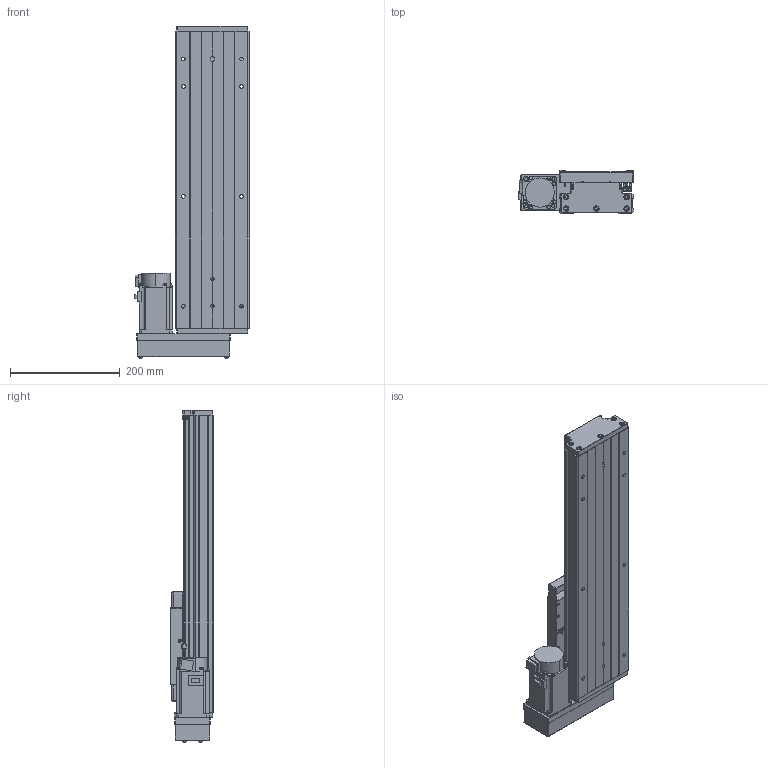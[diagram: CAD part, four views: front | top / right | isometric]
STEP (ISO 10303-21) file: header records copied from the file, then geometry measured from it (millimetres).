
FILE_DESCRIPTION (( 'STEP AP203' ), '1' );
FILE_NAME ('GTH14-300-BL-M40-C4.step', '2023-06-30T08:39:22', ( '微软用户' ), ( '微软中国' ), 'SwSTEP 2.0', 'SolidWorks 2020', '' );
FILE_SCHEMA (( 'CONFIG_CONTROL_DESIGN' ));
Length unit declared in the file: millimetre
Products named in the file (19): GTH14-004; GBT 70.1-M3℅5; GTH14-015-2_CTHA86-015-2; GTH14-005; GBT77-2000 M3×3; GTH14-033; GB1155-6X6; GTH14-031; GTH14-300-BL-M40-C4; GBT70.1 M5℅16; GBT 70.2-M3¡Á5_M3¡Á6; CTHA60-017; す晦芛蹟隊 M3℅5; GTH14-001_300; EE_SX911P_R; HG-KN43J-S100; GTH14-002_GTH14-002; CTHA60-016; GBT 70.2-M4¡Á35_M4¡Á35
Assembly tree (58 placements, depth 2):
  GTH14-300-BL-M40-C4
    GTH14-001_300
    GTH14-002_GTH14-002
    GTH14-004
    GTH14-005
    GB1155-6X6  x2
    GBT70.1 M5℅16  x10
    CTHA60-017  x3
    EE_SX911P_R  x3
    CTHA60-016  x2
    GBT 70.1-M3℅5  x6
    GBT77-2000 M3×3  x6
    GTH14-031
    GBT 70.2-M3¡Á5_M3¡Á6  x8
    す晦芛蹟隊 M3℅5  x6
    HG-KN43J-S100
    GBT 70.2-M4¡Á35_M4¡Á35  x4
    GTH14-015-2_CTHA86-015-2
    GTH14-033
Bounding box: 209.3 x 78 x 604.2 mm (x, y, z)
Volume: 3604100.3 mm3; surface area: 660201.4 mm2
Topology: 61 solids, 61 shells, 2443 faces, 5809 edges, 3578 vertices
Faces by surface type: plane 1305, cylinder 648, cone 314, torus 124, sphere 32, bspline 20
Entity records: 43850 total; most frequent: CARTESIAN_POINT 9807, DIRECTION 6429, ORIENTED_EDGE 6308, EDGE_CURVE 3154, AXIS2_PLACEMENT_3D 2192, LINE 2045, VECTOR 2045, VERTEX_POINT 1996
